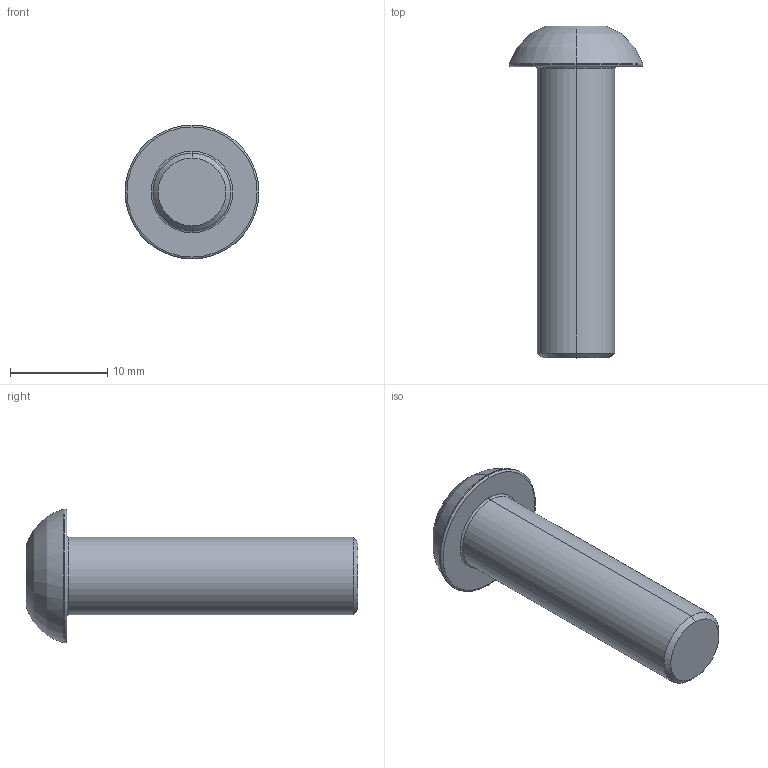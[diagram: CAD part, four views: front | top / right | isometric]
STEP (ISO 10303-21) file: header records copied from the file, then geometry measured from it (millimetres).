
FILE_DESCRIPTION (( 'STEP AP203' ), '1' );
FILE_NAME ('LGDD-304-M8x30.STEP', '2026-08-08T05:02:43', ( '' ), ( '' ), 'SwSTEP 2.0', 'SolidWorks 2020', '' );
FILE_SCHEMA (( 'CONFIG_CONTROL_DESIGN' ));
Length unit declared in the file: millimetre
Products named in the file (1): LGDD-304-M8x30
Bounding box: 13.8 x 34.2 x 13.8 mm (x, y, z)
Volume: 1881.6 mm3; surface area: 1184 mm2
Topology: 1 solids, 1 shells, 31 faces, 59 edges, 32 vertices
Faces by surface type: plane 10, cone 9, torus 8, cylinder 4
Entity records: 860 total; most frequent: CARTESIAN_POINT 150, DIRECTION 149, ORIENTED_EDGE 118, AXIS2_PLACEMENT_3D 65, EDGE_CURVE 59, CIRCLE 33, EDGE_LOOP 33, VERTEX_POINT 32
